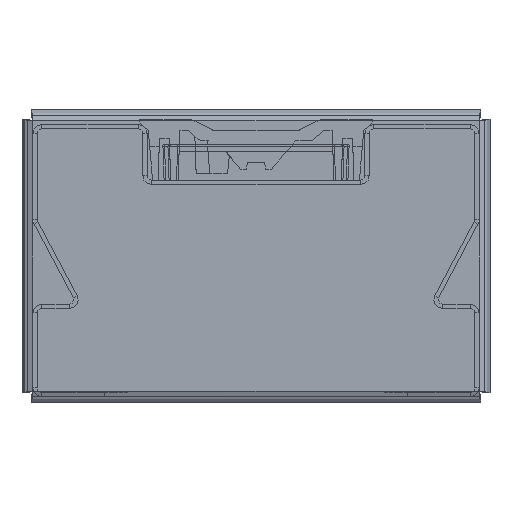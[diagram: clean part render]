
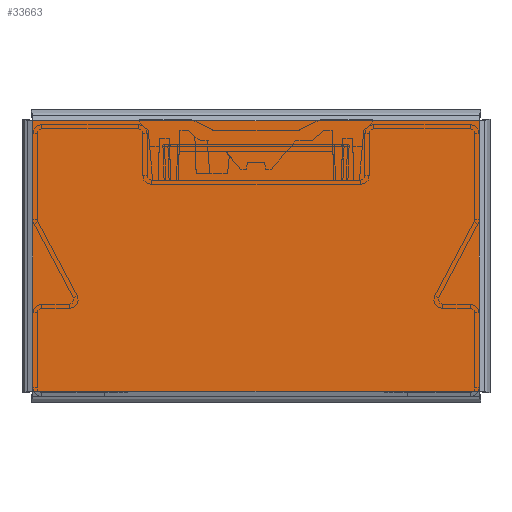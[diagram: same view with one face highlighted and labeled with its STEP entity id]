
A CAD part, left-side view. The second image highlights one B-rep face of the part: STEP entity #33663.
In plain terms, the highlighted planar face has unit normal (-1, 0, 0).
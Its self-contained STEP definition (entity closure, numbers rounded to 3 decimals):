
#1820=FACE_OUTER_BOUND('',#3608,.T.);
#3608=EDGE_LOOP('',(#22067,#22068,#22069,#22070));
#6003=LINE('',#48107,#9643);
#6010=LINE('',#48191,#9650);
#6025=LINE('',#48291,#9665);
#6040=LINE('',#48390,#9680);
#9643=VECTOR('',#38463,10.);
#9650=VECTOR('',#38478,10.);
#9665=VECTOR('',#38507,10.);
#9680=VECTOR('',#38536,10.);
#13281=VERTEX_POINT('',#48098);
#13282=VERTEX_POINT('',#48106);
#13287=VERTEX_POINT('',#48183);
#13297=VERTEX_POINT('',#48283);
#16614=EDGE_CURVE('',#13282,#13281,#6003,.T.);
#16625=EDGE_CURVE('',#13281,#13287,#6010,.T.);
#16644=EDGE_CURVE('',#13287,#13297,#6025,.T.);
#16663=EDGE_CURVE('',#13297,#13282,#6040,.T.);
#22067=ORIENTED_EDGE('',*,*,#16614,.T.);
#22068=ORIENTED_EDGE('',*,*,#16625,.T.);
#22069=ORIENTED_EDGE('',*,*,#16644,.T.);
#22070=ORIENTED_EDGE('',*,*,#16663,.T.);
#32565=PLANE('',#35468);
#33663=ADVANCED_FACE('',(#1820),#32565,.F.);
#35468=AXIS2_PLACEMENT_3D('',#48476,#38561,#38562);
#38463=DIRECTION('',(0.,-1.,0.));
#38478=DIRECTION('',(0.,0.,1.));
#38507=DIRECTION('',(0.,1.,0.));
#38536=DIRECTION('',(0.,0.,-1.));
#38561=DIRECTION('center_axis',(1.,0.,0.));
#38562=DIRECTION('ref_axis',(0.,1.,0.));
#48098=CARTESIAN_POINT('',(-6.5,-41.,-38.));
#48106=CARTESIAN_POINT('',(-6.5,41.,-38.));
#48107=CARTESIAN_POINT('',(-6.5,20.5,-38.));
#48183=CARTESIAN_POINT('',(-6.5,-41.,11.7));
#48191=CARTESIAN_POINT('',(-6.5,-41.,-25.575));
#48283=CARTESIAN_POINT('',(-6.5,41.,11.7));
#48291=CARTESIAN_POINT('',(-6.5,-20.5,11.7));
#48390=CARTESIAN_POINT('',(-6.5,41.,-0.725));
#48476=CARTESIAN_POINT('Origin',(-6.5,0.,
-13.15));
